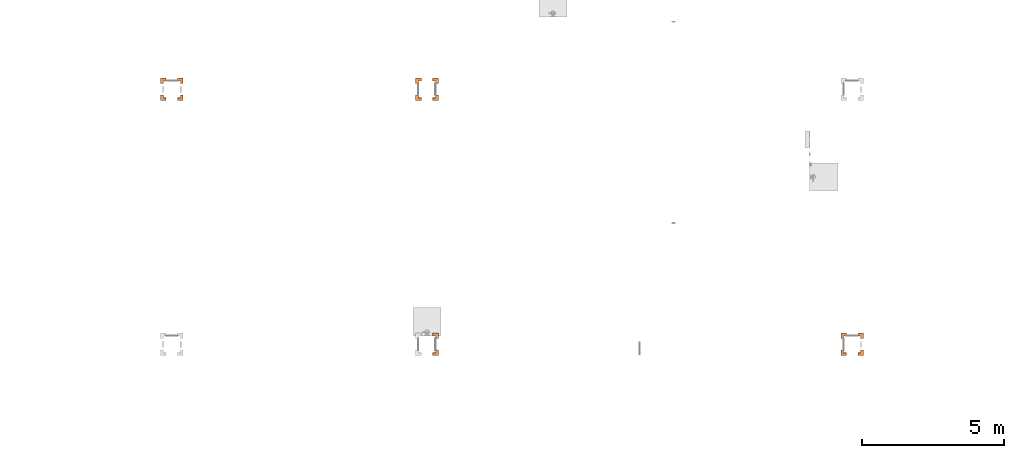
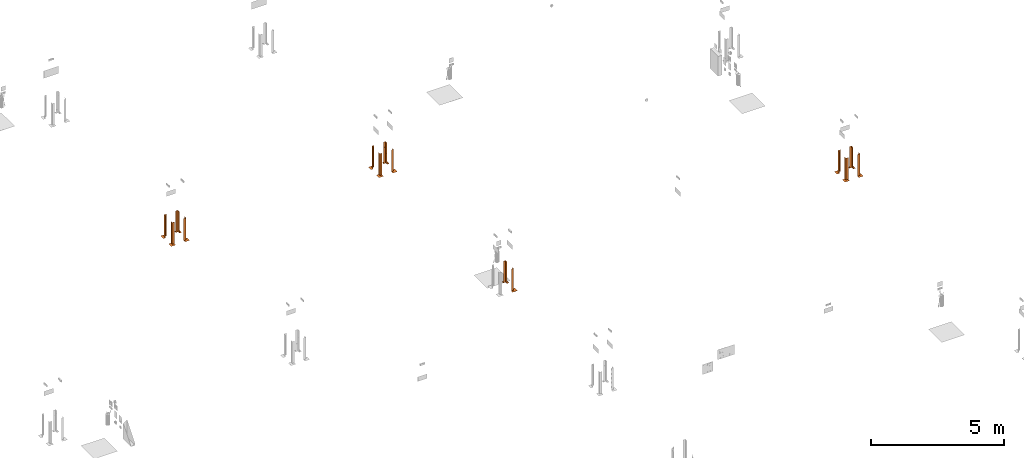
# One storey, part 19 of 119: 14 proxies.
"""IFC2X3 building model written with IfcOpenShell, lengths in metres."""

from ifc_helpers import new_model, entity, si_unit, converted_unit, derived_unit, direction, frame, origin, place, context, subcontext, project, spatial, faceted_brep, source, transform, mapped, material, material_list, type_object, type_shapes, element, save


model = new_model("IFC2X3")

# Units and contexts
model_context = context("Model", 3, precision=1e-05, world=origin(), true_north=direction((6.12303176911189e-17, 1.0)))
body_context = subcontext(model_context, "Body", "Model", "MODEL_VIEW")
ifc_project = project(units=[si_unit("LENGTHUNIT", "METRE"), si_unit("AREAUNIT", "SQUARE_METRE"), si_unit("VOLUMEUNIT", "CUBIC_METRE"), converted_unit("PLANEANGLEUNIT", "DEGREE", entity("IfcRatioMeasure", 0.0174532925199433), si_unit("PLANEANGLEUNIT", "RADIAN"), dimensions=[0, 0, 0, 0, 0, 0, 0]), si_unit("MASSUNIT", "GRAM", prefix="KILO"), derived_unit("MASSDENSITYUNIT", [(si_unit("MASSUNIT", "GRAM", prefix="KILO"), 1), (si_unit("LENGTHUNIT", "METRE"), -3)]), derived_unit("MOMENTOFINERTIAUNIT", [(si_unit("LENGTHUNIT", "METRE"), 4)]), si_unit("TIMEUNIT", "SECOND"), si_unit("FREQUENCYUNIT", "HERTZ"), si_unit("THERMODYNAMICTEMPERATUREUNIT", "DEGREE_CELSIUS"), derived_unit("THERMALTRANSMITTANCEUNIT", [(si_unit("MASSUNIT", "GRAM", prefix="KILO"), 1), (si_unit("THERMODYNAMICTEMPERATUREUNIT", "KELVIN"), -1), (si_unit("TIMEUNIT", "SECOND"), -3)]), derived_unit("VOLUMETRICFLOWRATEUNIT", [(si_unit("LENGTHUNIT", "METRE"), 3), (si_unit("TIMEUNIT", "SECOND"), -1)]), si_unit("ELECTRICCURRENTUNIT", "AMPERE"), si_unit("ELECTRICVOLTAGEUNIT", "VOLT"), si_unit("POWERUNIT", "WATT"), si_unit("FORCEUNIT", "NEWTON", prefix="KILO"), si_unit("ILLUMINANCEUNIT", "LUX"), si_unit("LUMINOUSFLUXUNIT", "LUMEN"), si_unit("LUMINOUSINTENSITYUNIT", "CANDELA"), derived_unit("USERDEFINED", [(si_unit("MASSUNIT", "GRAM", prefix="KILO"), -1), (si_unit("LENGTHUNIT", "METRE"), -2), (si_unit("TIMEUNIT", "SECOND"), 3), (si_unit("LUMINOUSFLUXUNIT", "LUMEN"), 1)]), derived_unit("LINEARVELOCITYUNIT", [(si_unit("LENGTHUNIT", "METRE"), 1), (si_unit("TIMEUNIT", "SECOND"), -1)]), si_unit("PRESSUREUNIT", "PASCAL"), derived_unit("USERDEFINED", [(si_unit("LENGTHUNIT", "METRE"), -2), (si_unit("MASSUNIT", "GRAM", prefix="KILO"), 1), (si_unit("TIMEUNIT", "SECOND"), -2)]), derived_unit("LINEARFORCEUNIT", [(si_unit("MASSUNIT", "GRAM", prefix="KILO"), 1), (si_unit("LENGTHUNIT", "METRE"), 1), (si_unit("TIMEUNIT", "SECOND"), -2), (si_unit("LENGTHUNIT", "METRE"), -1)]), derived_unit("PLANARFORCEUNIT", [(si_unit("MASSUNIT", "GRAM", prefix="KILO"), 1), (si_unit("LENGTHUNIT", "METRE"), 1), (si_unit("TIMEUNIT", "SECOND"), -2), (si_unit("LENGTHUNIT", "METRE"), -2)])], contexts=[model_context])

# Site, building, storey
site_placement = place(None, origin())
site = spatial("IfcSite", under=ifc_project, at=site_placement, Name="Default", CompositionType="ELEMENT")
building_placement = place(site_placement, origin())
building = spatial("IfcBuilding", under=site, at=building_placement, CompositionType="ELEMENT")
storey_placement = place(building_placement, origin())
storey = spatial("IfcBuildingStorey", under=building, at=storey_placement, Name="PAV. 01 - TÉRREO", CompositionType="ELEMENT", Elevation=0.0)

# Proxies
ifc_material_1 = material(Name="Plastico Amarelo")
ifc_material_2 = material(Name="Plastico Preto")
ifc_material_3 = material(Name="O_01_amarelo")
ifc_material_4 = material(Name="O_01_Preto")
ifc_material_list_1 = material_list([ifc_material_1, ifc_material_2, ifc_material_3, ifc_material_4])
ifc_material_list_2 = material_list([ifc_material_3, ifc_material_4, ifc_material_1])
building_element_proxy_type = type_object("IfcBuildingElementProxyType", Name="Indicação de Obstáculos:Indicador - O01 - Amarelo (ambiente interno)", PredefinedType="NOTDEFINED", material=ifc_material_list_2)
shared_shape = source(origin(), body_context, "Body", "Brep", [
    faceted_brep([(0.1, -0.0499999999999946, 0.000999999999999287), (0.0499999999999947, -0.1, 0.000999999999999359), (0.1, -0.1, 0.000999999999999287), (0.1, -0.0499999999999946, 0.0), (0.1, -0.1, 0.0), (0.0499999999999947, -0.1, 0.0)], [[[0, 1, 2]], [[3, 4, 5]], [[0, 2, 4, 3]], [[1, 0, 3, 5]], [[2, 1, 5, 4]]]),
    faceted_brep([(0.100000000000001, 0.0, 0.000999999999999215), (0.0, -0.1, 0.000999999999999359), (0.049999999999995, -0.1, 0.000999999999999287), (0.100000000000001, -0.0499999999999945, 0.000999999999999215), (0.100000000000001, 0.0, 0.0), (0.100000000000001, -0.0499999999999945, 0.0), (0.049999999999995, -0.1, 0.0), (0.0, -0.1, 0.0)], [[[0, 1, 2, 3]], [[4, 5, 6, 7]], [[0, 3, 5, 4]], [[1, 0, 4, 7]], [[3, 2, 6, 5]], [[2, 1, 7, 6]]]),
    faceted_brep([(0.049999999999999, 0.0, 0.000999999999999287), (-0.0500000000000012, -0.0999999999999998, 0.000999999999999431), (0.0, -0.1, 0.000999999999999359), (0.0999999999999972, 0.0, 0.000999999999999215), (0.049999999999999, 0.0, 0.0), (0.0999999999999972, 0.0, 0.0), (0.0, -0.1, 0.0), (-0.0500000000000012, -0.0999999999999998, 0.0)], [[[0, 1, 2, 3]], [[4, 5, 6, 7]], [[1, 0, 4, 7]], [[3, 2, 6, 5]], [[2, 1, 7, 6]], [[0, 3, 5, 4]]]),
    faceted_brep([(-0.0999999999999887, -0.0999999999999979, 0.000999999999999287), (-0.0499999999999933, -0.0999999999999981, 0.000999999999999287), (0.0499999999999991, 0.0, 0.000999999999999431), (0.0, 0.0, 0.000999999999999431), (-0.0999999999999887, -0.0999999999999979, 0.0), (0.0, 0.0, 0.0), (0.049999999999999, 0.0, 0.0), (-0.0499999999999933, -0.0999999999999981, 0.0)], [[[0, 1, 2, 3]], [[4, 5, 6, 7]], [[0, 3, 5, 4]], [[2, 1, 7, 6]], [[3, 2, 6, 5]], [[1, 0, 4, 7]]]),
    faceted_brep([(0.0, 0.0500000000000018, 0.000999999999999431), (-0.0999999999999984, -0.0500000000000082, 0.000999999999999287), (-0.099999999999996, -0.100000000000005, 0.000999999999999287), (0.0, 0.0, 0.000999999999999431), (0.0, 0.0500000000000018, 0.0), (0.0, 0.0, 0.0), (-0.099999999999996, -0.100000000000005, 0.0), (-0.0999999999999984, -0.0500000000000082, 0.0)], [[[0, 1, 2, 3]], [[4, 5, 6, 7]], [[0, 3, 5, 4]], [[1, 0, 4, 7]], [[2, 1, 7, 6]], [[3, 2, 6, 5]]]),
    faceted_brep([(-0.0999999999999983, 0.0499999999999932, 0.000999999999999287), (-0.0499999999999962, 0.1, 0.000999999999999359), (-0.100000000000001, 0.1, 0.000999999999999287), (-0.0999999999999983, 0.0499999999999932, 0.0), (-0.100000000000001, 0.1, 0.0), (-0.0499999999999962, 0.1, 0.0)], [[[0, 1, 2]], [[3, 4, 5]], [[0, 2, 4, 3]], [[1, 0, 3, 5]], [[2, 1, 5, 4]]]),
    faceted_brep([(-0.0999999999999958, 0.0, 0.000999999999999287), (0.0, 0.1, 0.000999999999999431), (-0.0499999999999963, 0.1, 0.000999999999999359), (-0.0999999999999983, 0.0499999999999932, 0.000999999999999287), (-0.0999999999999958, 0.0, 0.0), (-0.0999999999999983, 0.0499999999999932, 0.0), (-0.0499999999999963, 0.1, 0.0), (0.0, 0.1, 0.0)], [[[0, 1, 2, 3]], [[4, 5, 6, 7]], [[0, 3, 5, 4]], [[1, 0, 4, 7]], [[3, 2, 6, 5]], [[2, 1, 7, 6]]]),
    faceted_brep([(0.0, 0.050000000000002, 0.000999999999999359), (0.0, 0.1, 0.000999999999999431), (-0.0999999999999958, 0.0, 0.000999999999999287), (-0.0999999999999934, -0.0500000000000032, 0.000999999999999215), (0.0, 0.0500000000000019, 0.0), (-0.0999999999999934, -0.0500000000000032, 0.0), (-0.0999999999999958, 0.0, 0.0), (0.0, 0.1, 0.0)], [[[0, 1, 2, 3]], [[4, 5, 6, 7]], [[1, 0, 4, 7]], [[2, 1, 7, 6]], [[0, 3, 5, 4]], [[3, 2, 6, 5]]]),
    faceted_brep([(0.00200000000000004, 0.1, 1.0), (0.002, 0.00199999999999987, 0.902000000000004), (0.002, 0.00199999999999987, 0.802000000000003), (0.00200000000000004, 0.1, 0.900000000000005), (0.0, 0.1, 0.900000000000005), (0.0, 0.0, 0.800000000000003), (0.0, 0.0, 0.900000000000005), (0.0, 0.1, 1.0)], [[[0, 1, 2, 3]], [[4, 5, 6, 7]], [[4, 3, 2, 5]], [[1, 6, 5, 2]], [[6, 1, 0, 7]], [[3, 4, 7, 0]]]),
    faceted_brep([(0.00200000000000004, 0.1, 0.800000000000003), (0.002, 0.00199999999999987, 0.702000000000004), (0.002, 0.00199999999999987, 0.602000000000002), (0.00200000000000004, 0.1, 0.700000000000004), (0.0, 0.1, 0.700000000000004), (0.0, 0.0, 0.600000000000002), (0.0, 0.0, 0.700000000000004), (0.0, 0.1, 0.800000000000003)], [[[0, 1, 2, 3]], [[4, 5, 6, 7]], [[4, 3, 2, 5]], [[1, 6, 5, 2]], [[6, 1, 0, 7]], [[3, 4, 7, 0]]]),
    faceted_brep([(0.00200000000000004, 0.1, 0.600000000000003), (0.002, 0.00199999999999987, 0.502000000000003), (0.002, 0.00199999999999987, 0.402000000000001), (0.00200000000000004, 0.1, 0.500000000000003), (0.0, 0.1, 0.500000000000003), (0.0, 0.0, 0.400000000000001), (0.0, 0.0, 0.500000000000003), (0.0, 0.1, 0.600000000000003)], [[[0, 1, 2, 3]], [[4, 5, 6, 7]], [[4, 3, 2, 5]], [[1, 6, 5, 2]], [[6, 1, 0, 7]], [[3, 4, 7, 0]]]),
    faceted_brep([(0.00200000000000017, 0.0999999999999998, 0.400000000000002), (0.00200000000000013, 0.0019999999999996, 0.302000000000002), (0.00200000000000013, 0.0019999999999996, 0.202), (0.00200000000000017, 0.0999999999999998, 0.300000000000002), (0.0, 0.0999999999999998, 0.300000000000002), (0.0, 0.0, 0.2), (0.0, 0.0, 0.300000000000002), (0.0, 0.0999999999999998, 0.400000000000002)], [[[0, 1, 2, 3]], [[4, 5, 6, 7]], [[4, 3, 2, 5]], [[1, 6, 5, 2]], [[6, 1, 0, 7]], [[3, 4, 7, 0]]]),
    faceted_brep([(0.000500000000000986, 0.1, 0.900000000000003), (0.000500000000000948, 0.000499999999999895, 0.800500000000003), (0.000500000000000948, 0.00049999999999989, 0.700500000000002), (0.000500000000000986, 0.1, 0.800000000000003), (0.0, 0.1, 0.800000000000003), (0.0, 0.0, 0.700000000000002), (0.0, 0.0, 0.800000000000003), (0.0, 0.1, 0.900000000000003)], [[[0, 1, 2, 3]], [[4, 5, 6, 7]], [[4, 3, 2, 5]], [[1, 6, 5, 2]], [[6, 1, 0, 7]], [[3, 4, 7, 0]]]),
    faceted_brep([(0.000500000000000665, 0.1, 0.700000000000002), (0.000500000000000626, 0.000499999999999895, 0.600500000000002), (0.000500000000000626, 0.00049999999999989, 0.500500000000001), (0.000500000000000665, 0.1, 0.600000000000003), (0.0, 0.1, 0.600000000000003), (0.0, 0.0, 0.500000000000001), (0.0, 0.0, 0.600000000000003), (0.0, 0.1, 0.700000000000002)], [[[0, 1, 2, 3]], [[4, 5, 6, 7]], [[4, 3, 2, 5]], [[1, 6, 5, 2]], [[6, 1, 0, 7]], [[3, 4, 7, 0]]]),
    faceted_brep([(0.000500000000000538, 0.0999999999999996, 0.500000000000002), (0.000500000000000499, 0.000499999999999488, 0.400500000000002), (0.000500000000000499, 0.000499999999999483, 0.3005), (0.000500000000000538, 0.0999999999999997, 0.400000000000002), (0.0, 0.0999999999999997, 0.400000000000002), (0.0, 0.0, 0.3), (0.0, 0.0, 0.400000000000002), (0.0, 0.0999999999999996, 0.500000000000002)], [[[0, 1, 2, 3]], [[4, 5, 6, 7]], [[4, 3, 2, 5]], [[1, 6, 5, 2]], [[6, 1, 0, 7]], [[3, 4, 7, 0]]]),
    faceted_brep([(0.00499999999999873, 0.00499999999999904, 1.0), (0.00499999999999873, 0.00499999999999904, 0.904999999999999), (0.00499999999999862, 0.0999999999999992, 1.0), (0.0, 0.0, 0.899999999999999), (0.0, 0.0, 1.0), (0.0, 0.0999999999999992, 1.0)], [[[0, 1, 2]], [[3, 4, 5]], [[4, 0, 2, 5]], [[5, 2, 1, 3]], [[0, 4, 3, 1]]]),
    faceted_brep([(0.00499999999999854, 0.00499999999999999, 1.0), (0.0999999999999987, 0.00499999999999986, 1.0), (0.00499999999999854, 0.00499999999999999, 0.904999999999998), (0.0, 0.0, 0.899999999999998), (0.0999999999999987, 0.0, 1.0), (0.0, 0.0, 1.0)], [[[0, 1, 2]], [[3, 4, 5]], [[5, 4, 1, 0]], [[4, 3, 2, 1]], [[0, 2, 3, 5]]]),
    faceted_brep([(0.0999999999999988, 0.000499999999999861, 0.900000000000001), (0.0999999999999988, 0.000499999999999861, 0.800000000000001), (0.000499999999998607, 0.000499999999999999, 0.7005), (0.000499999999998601, 0.000499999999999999, 0.800500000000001), (0.0999999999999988, 0.0, 0.800000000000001), (0.0999999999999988, 0.0, 0.900000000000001), (0.0, 0.0, 0.800000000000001), (0.0, 0.0, 0.7)], [[[0, 1, 2, 3]], [[4, 5, 6, 7]], [[4, 7, 2, 1]], [[3, 2, 7, 6]], [[6, 5, 0, 3]], [[1, 0, 5, 4]]]),
    faceted_brep([(0.0999999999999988, 0.000499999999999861, 0.700000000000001), (0.0999999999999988, 0.000499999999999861, 0.600000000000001), (0.000499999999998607, 0.000499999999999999, 0.5005), (0.000499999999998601, 0.000499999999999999, 0.600500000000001), (0.0999999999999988, 0.0, 0.600000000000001), (0.0999999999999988, 0.0, 0.700000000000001), (0.0, 0.0, 0.600000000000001), (0.0, 0.0, 0.5)], [[[0, 1, 2, 3]], [[4, 5, 6, 7]], [[4, 7, 2, 1]], [[3, 2, 7, 6]], [[6, 5, 0, 3]], [[1, 0, 5, 4]]]),
    faceted_brep([(0.0999999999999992, 0.000499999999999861, 0.500000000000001), (0.0999999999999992, 0.000499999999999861, 0.400000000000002), (0.000499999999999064, 0.000499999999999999, 0.3005), (0.000499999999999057, 0.000499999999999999, 0.400500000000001), (0.0999999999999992, 0.0, 0.400000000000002), (0.0999999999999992, 0.0, 0.500000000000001), (0.0, 0.0, 0.400000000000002), (0.0, 0.0, 0.3)], [[[0, 1, 2, 3]], [[4, 5, 6, 7]], [[4, 7, 2, 1]], [[3, 2, 7, 6]], [[6, 5, 0, 3]], [[1, 0, 5, 4]]]),
    faceted_brep([(0.0999999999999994, 0.00199999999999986, 1.0), (0.0999999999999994, 0.00199999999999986, 0.900000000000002), (0.00199999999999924, 0.002, 0.802), (0.00199999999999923, 0.002, 0.902000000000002), (0.0999999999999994, 0.0, 0.900000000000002), (0.0999999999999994, 0.0, 1.0), (0.0, 0.0, 0.900000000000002), (0.0, 0.0, 0.8)], [[[0, 1, 2, 3]], [[4, 5, 6, 7]], [[4, 7, 2, 1]], [[3, 2, 7, 6]], [[6, 5, 0, 3]], [[1, 0, 5, 4]]]),
    faceted_brep([(0.0999999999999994, 0.00199999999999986, 0.800000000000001), (0.0999999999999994, 0.00199999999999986, 0.700000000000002), (0.00199999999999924, 0.002, 0.602), (0.00199999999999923, 0.002, 0.702000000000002), (0.0999999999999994, 0.0, 0.700000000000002), (0.0999999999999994, 0.0, 0.800000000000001), (0.0, 0.0, 0.700000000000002), (0.0, 0.0, 0.6)], [[[0, 1, 2, 3]], [[4, 5, 6, 7]], [[4, 7, 2, 1]], [[3, 2, 7, 6]], [[6, 5, 0, 3]], [[1, 0, 5, 4]]]),
    faceted_brep([(0.0999999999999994, 0.00199999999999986, 0.600000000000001), (0.0999999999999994, 0.00199999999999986, 0.500000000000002), (0.00199999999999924, 0.002, 0.402), (0.00199999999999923, 0.002, 0.502000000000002), (0.0999999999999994, 0.0, 0.500000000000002), (0.0999999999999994, 0.0, 0.600000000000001), (0.0, 0.0, 0.500000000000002), (0.0, 0.0, 0.4)], [[[0, 1, 2, 3]], [[4, 5, 6, 7]], [[4, 7, 2, 1]], [[3, 2, 7, 6]], [[6, 5, 0, 3]], [[1, 0, 5, 4]]]),
    faceted_brep([(0.0999999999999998, 0.00199999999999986, 0.400000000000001), (0.0999999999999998, 0.00199999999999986, 0.300000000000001), (0.00199999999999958, 0.002, 0.202), (0.00199999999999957, 0.002, 0.302000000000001), (0.0999999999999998, 0.0, 0.300000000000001), (0.0999999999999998, 0.0, 0.400000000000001), (0.0, 0.0, 0.300000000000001), (0.0, 0.0, 0.2)], [[[0, 1, 2, 3]], [[4, 5, 6, 7]], [[4, 7, 2, 1]], [[3, 2, 7, 6]], [[6, 5, 0, 3]], [[1, 0, 5, 4]]]),
    faceted_brep([(0.000500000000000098, 0.1, 0.300000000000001), (0.000500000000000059, 0.000499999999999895, 0.200500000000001), (0.000500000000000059, 0.00049999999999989, 0.1005), (0.000500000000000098, 0.1, 0.200000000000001), (0.0, 0.1, 0.200000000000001), (0.0, 0.0, 0.0999999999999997), (0.0, 0.0, 0.200000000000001), (0.0, 0.1, 0.300000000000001)], [[[0, 1, 2, 3]], [[4, 5, 6, 7]], [[4, 3, 2, 5]], [[1, 6, 5, 2]], [[6, 1, 0, 7]], [[3, 4, 7, 0]]]),
    faceted_brep([(0.00200000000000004, 0.1, 0.200000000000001), (0.002, 0.00199999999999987, 0.102000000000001), (0.002, 0.00199999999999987, 0.00199999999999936), (0.00200000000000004, 0.1, 0.100000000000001), (0.0, 0.1, 0.100000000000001), (0.0, 0.0, 0.0), (0.0, 0.0, 0.100000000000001), (0.0, 0.1, 0.200000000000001)], [[[0, 1, 2, 3]], [[4, 5, 6, 7]], [[4, 3, 2, 5]], [[1, 6, 5, 2]], [[6, 1, 0, 7]], [[3, 4, 7, 0]]]),
    faceted_brep([(0.000500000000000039, 0.1, 0.100000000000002), (0.0005, 0.000499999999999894, 0.000499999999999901), (0.0005, 0.000499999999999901, 0.0), (0.000500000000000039, 0.1, 0.0), (0.0, 0.0, 0.0), (0.0, 0.1, 0.100000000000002), (0.0, 0.1, 0.0)], [[[0, 1, 2, 3]], [[4, 5, 6]], [[3, 6, 5, 0]], [[6, 3, 2, 4]], [[4, 1, 0, 5]], [[1, 4, 2]]]),
    faceted_brep([(0.0999999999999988, 0.000499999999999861, 0.300000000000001), (0.0999999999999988, 0.000499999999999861, 0.200000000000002), (0.000499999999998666, 0.000499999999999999, 0.1005), (0.00049999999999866, 0.000499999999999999, 0.200500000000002), (0.0999999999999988, 0.0, 0.200000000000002), (0.0999999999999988, 0.0, 0.300000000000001), (0.0, 0.0, 0.200000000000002), (0.0, 0.0, 0.1)], [[[0, 1, 2, 3]], [[4, 5, 6, 7]], [[4, 7, 2, 1]], [[3, 2, 7, 6]], [[6, 5, 0, 3]], [[1, 0, 5, 4]]]),
    faceted_brep([(0.0999999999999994, 0.00199999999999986, 0.200000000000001), (0.0999999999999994, 0.00199999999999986, 0.100000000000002), (0.00199999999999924, 0.002, 0.0019999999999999), (0.00199999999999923, 0.002, 0.102000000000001), (0.0999999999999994, 0.0, 0.100000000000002), (0.0999999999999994, 0.0, 0.200000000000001), (0.0, 0.0, 0.100000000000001), (0.0, 0.0, 0.0)], [[[0, 1, 2, 3]], [[4, 5, 6, 7]], [[4, 7, 2, 1]], [[3, 2, 7, 6]], [[6, 5, 0, 3]], [[1, 0, 5, 4]]]),
    faceted_brep([(0.1, 0.000499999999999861, 0.100000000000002), (0.1, 0.000499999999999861, 0.0), (0.000499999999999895, 0.000499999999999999, 0.0), (0.000499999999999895, 0.000499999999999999, 0.000499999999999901), (0.0, 0.0, 0.0), (0.1, 0.0, 0.0), (0.1, 0.0, 0.100000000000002)], [[[0, 1, 2, 3]], [[4, 5, 6]], [[1, 0, 6, 5]], [[5, 4, 2, 1]], [[4, 6, 0, 3]], [[3, 2, 4]]]),
])
type_shapes(building_element_proxy_type, [shared_shape])
proxy_1_placement = place(storey_placement, frame((66.4737997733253, 22.6286563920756, 0.0), z_axis=(0.0, 0.0, 1.0), x_axis=(0.0, 1.0, 0.0)))
element("IfcBuildingElementProxy", 1, at=proxy_1_placement, inside=storey, type_object=building_element_proxy_type, material=ifc_material_list_1, Name="Indicação de Obstáculos:Indicador - O01 - Amarelo (ambiente interno)", ObjectType="Indicação de Obstáculos:Indicador - O01 - Amarelo (ambiente interno)", context=body_context, shape_type="MappedRepresentation", body=[
    mapped(shared_shape, transform((0.0, 0.0, 0.0), scale=1.0)),
])
ifc_material_list_3 = material_list([ifc_material_1, ifc_material_2, ifc_material_3, ifc_material_4])
proxy_2_placement = place(storey_placement, frame((65.8738005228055, 22.6286563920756, 0.0)))
element("IfcBuildingElementProxy", 2, at=proxy_2_placement, inside=storey, type_object=building_element_proxy_type, material=ifc_material_list_3, Name="Indicação de Obstáculos:Indicador - O01 - Amarelo (ambiente interno)", ObjectType="Indicação de Obstáculos:Indicador - O01 - Amarelo (ambiente interno)", context=body_context, shape_type="MappedRepresentation", body=[
    mapped(shared_shape, transform((0.0, 0.0, 0.0), scale=1.0)),
])
ifc_material_list_4 = material_list([ifc_material_1, ifc_material_2, ifc_material_3, ifc_material_4])
proxy_3_placement = place(storey_placement, frame((66.4737997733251, 23.2286556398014, 0.0), z_axis=(0.0, 0.0, 1.0), x_axis=(-1.0, 0.0, 0.0)))
element("IfcBuildingElementProxy", 3, at=proxy_3_placement, inside=storey, type_object=building_element_proxy_type, material=ifc_material_list_4, Name="Indicação de Obstáculos:Indicador - O01 - Amarelo (ambiente interno)", ObjectType="Indicação de Obstáculos:Indicador - O01 - Amarelo (ambiente interno)", context=body_context, shape_type="MappedRepresentation", body=[
    mapped(shared_shape, transform((0.0, 0.0, 0.0), scale=1.0)),
])
ifc_material_list_5 = material_list([ifc_material_1, ifc_material_2, ifc_material_3, ifc_material_4])
proxy_4_placement = place(storey_placement, frame((65.8738005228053, 23.2286556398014, 0.0), z_axis=(0.0, 0.0, 1.0), x_axis=(0.0, -1.0, 0.0)))
element("IfcBuildingElementProxy", 4, at=proxy_4_placement, inside=storey, type_object=building_element_proxy_type, material=ifc_material_list_5, Name="Indicação de Obstáculos:Indicador - O01 - Amarelo (ambiente interno)", ObjectType="Indicação de Obstáculos:Indicador - O01 - Amarelo (ambiente interno)", context=body_context, shape_type="MappedRepresentation", body=[
    mapped(shared_shape, transform((0.0, 0.0, 0.0), scale=1.0)),
])
ifc_material_list_6 = material_list([ifc_material_1, ifc_material_2, ifc_material_3, ifc_material_4])
proxy_5_placement = place(storey_placement, frame((81.4737810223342, 13.6286676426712, 0.0), z_axis=(0.0, 0.0, 1.0), x_axis=(0.0, 1.0, 0.0)))
element("IfcBuildingElementProxy", 5, at=proxy_5_placement, inside=storey, type_object=building_element_proxy_type, material=ifc_material_list_6, Name="Indicação de Obstáculos:Indicador - O01 - Amarelo (ambiente interno)", ObjectType="Indicação de Obstáculos:Indicador - O01 - Amarelo (ambiente interno)", context=body_context, shape_type="MappedRepresentation", body=[
    mapped(shared_shape, transform((0.0, 0.0, 0.0), scale=1.0)),
])
ifc_material_list_7 = material_list([ifc_material_1, ifc_material_2, ifc_material_3, ifc_material_4])
proxy_6_placement = place(storey_placement, frame((80.8737817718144, 13.6286676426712, 0.0)))
element("IfcBuildingElementProxy", 6, at=proxy_6_placement, inside=storey, type_object=building_element_proxy_type, material=ifc_material_list_7, Name="Indicação de Obstáculos:Indicador - O01 - Amarelo (ambiente interno)", ObjectType="Indicação de Obstáculos:Indicador - O01 - Amarelo (ambiente interno)", context=body_context, shape_type="MappedRepresentation", body=[
    mapped(shared_shape, transform((0.0, 0.0, 0.0), scale=1.0)),
])
ifc_material_list_8 = material_list([ifc_material_1, ifc_material_2, ifc_material_3, ifc_material_4])
proxy_7_placement = place(storey_placement, frame((81.4737810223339, 14.228666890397, 0.0), z_axis=(0.0, 0.0, 1.0), x_axis=(-1.0, 0.0, 0.0)))
element("IfcBuildingElementProxy", 7, at=proxy_7_placement, inside=storey, type_object=building_element_proxy_type, material=ifc_material_list_8, Name="Indicação de Obstáculos:Indicador - O01 - Amarelo (ambiente interno)", ObjectType="Indicação de Obstáculos:Indicador - O01 - Amarelo (ambiente interno)", context=body_context, shape_type="MappedRepresentation", body=[
    mapped(shared_shape, transform((0.0, 0.0, 0.0), scale=1.0)),
])
ifc_material_list_9 = material_list([ifc_material_1, ifc_material_2, ifc_material_3, ifc_material_4])
proxy_8_placement = place(storey_placement, frame((80.8737817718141, 14.228666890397, 0.0), z_axis=(0.0, 0.0, 1.0), x_axis=(0.0, -1.0, 0.0)))
element("IfcBuildingElementProxy", 8, at=proxy_8_placement, inside=storey, type_object=building_element_proxy_type, material=ifc_material_list_9, Name="Indicação de Obstáculos:Indicador - O01 - Amarelo (ambiente interno)", ObjectType="Indicação de Obstáculos:Indicador - O01 - Amarelo (ambiente interno)", context=body_context, shape_type="MappedRepresentation", body=[
    mapped(shared_shape, transform((0.0, 0.0, 0.0), scale=1.0)),
])
ifc_material_list_10 = material_list([ifc_material_1, ifc_material_2, ifc_material_3, ifc_material_4])
proxy_9_placement = place(storey_placement, frame((66.4737997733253, 13.6286676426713, 0.0), z_axis=(0.0, 0.0, 1.0), x_axis=(0.0, 1.0, 0.0)))
element("IfcBuildingElementProxy", 9, at=proxy_9_placement, inside=storey, type_object=building_element_proxy_type, material=ifc_material_list_10, Name="Indicação de Obstáculos:Indicador - O01 - Amarelo (ambiente interno)", ObjectType="Indicação de Obstáculos:Indicador - O01 - Amarelo (ambiente interno)", context=body_context, shape_type="MappedRepresentation", body=[
    mapped(shared_shape, transform((0.0, 0.0, 0.0), scale=1.0)),
])
ifc_material_list_11 = material_list([ifc_material_1, ifc_material_2, ifc_material_3, ifc_material_4])
proxy_10_placement = place(storey_placement, frame((66.4737997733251, 14.228666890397, 0.0), z_axis=(0.0, 0.0, 1.0), x_axis=(-1.0, 0.0, 0.0)))
element("IfcBuildingElementProxy", 10, at=proxy_10_placement, inside=storey, type_object=building_element_proxy_type, material=ifc_material_list_11, Name="Indicação de Obstáculos:Indicador - O01 - Amarelo (ambiente interno)", ObjectType="Indicação de Obstáculos:Indicador - O01 - Amarelo (ambiente interno)", context=body_context, shape_type="MappedRepresentation", body=[
    mapped(shared_shape, transform((0.0, 0.0, 0.0), scale=1.0)),
])
ifc_material_list_12 = material_list([ifc_material_1, ifc_material_2, ifc_material_3, ifc_material_4])
proxy_11_placement = place(storey_placement, frame((57.4738110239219, 22.6286563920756, 0.0), z_axis=(0.0, 0.0, 1.0), x_axis=(0.0, 1.0, 0.0)))
element("IfcBuildingElementProxy", 11, at=proxy_11_placement, inside=storey, type_object=building_element_proxy_type, material=ifc_material_list_12, Name="Indicação de Obstáculos:Indicador - O01 - Amarelo (ambiente interno)", ObjectType="Indicação de Obstáculos:Indicador - O01 - Amarelo (ambiente interno)", context=body_context, shape_type="MappedRepresentation", body=[
    mapped(shared_shape, transform((0.0, 0.0, 0.0), scale=1.0)),
])
ifc_material_list_13 = material_list([ifc_material_1, ifc_material_2, ifc_material_3, ifc_material_4])
proxy_12_placement = place(storey_placement, frame((56.873811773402, 22.6286563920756, 0.0)))
element("IfcBuildingElementProxy", 12, at=proxy_12_placement, inside=storey, type_object=building_element_proxy_type, material=ifc_material_list_13, Name="Indicação de Obstáculos:Indicador - O01 - Amarelo (ambiente interno)", ObjectType="Indicação de Obstáculos:Indicador - O01 - Amarelo (ambiente interno)", context=body_context, shape_type="MappedRepresentation", body=[
    mapped(shared_shape, transform((0.0, 0.0, 0.0), scale=1.0)),
])
ifc_material_list_14 = material_list([ifc_material_1, ifc_material_2, ifc_material_3, ifc_material_4])
proxy_13_placement = place(storey_placement, frame((57.4738110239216, 23.2286556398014, 0.0), z_axis=(0.0, 0.0, 1.0), x_axis=(-1.0, 0.0, 0.0)))
element("IfcBuildingElementProxy", 13, at=proxy_13_placement, inside=storey, type_object=building_element_proxy_type, material=ifc_material_list_14, Name="Indicação de Obstáculos:Indicador - O01 - Amarelo (ambiente interno)", ObjectType="Indicação de Obstáculos:Indicador - O01 - Amarelo (ambiente interno)", context=body_context, shape_type="MappedRepresentation", body=[
    mapped(shared_shape, transform((0.0, 0.0, 0.0), scale=1.0)),
])
ifc_material_list_15 = material_list([ifc_material_1, ifc_material_2, ifc_material_3, ifc_material_4])
proxy_14_placement = place(storey_placement, frame((56.8738117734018, 23.2286556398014, 0.0), z_axis=(0.0, 0.0, 1.0), x_axis=(0.0, -1.0, 0.0)))
element("IfcBuildingElementProxy", 14, at=proxy_14_placement, inside=storey, type_object=building_element_proxy_type, material=ifc_material_list_15, Name="Indicação de Obstáculos:Indicador - O01 - Amarelo (ambiente interno)", ObjectType="Indicação de Obstáculos:Indicador - O01 - Amarelo (ambiente interno)", context=body_context, shape_type="MappedRepresentation", body=[
    mapped(shared_shape, transform((0.0, 0.0, 0.0), scale=1.0)),
])

save(model, "model.ifc")
